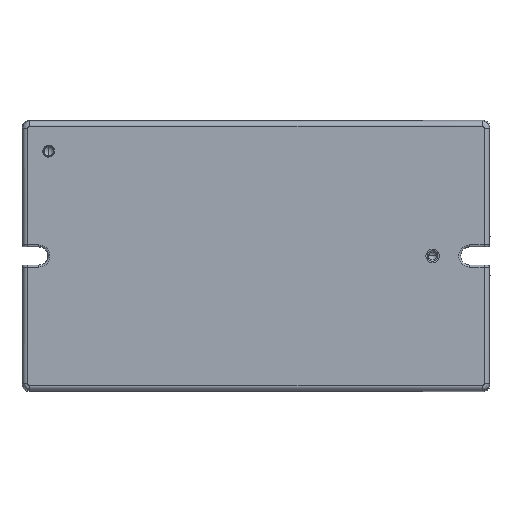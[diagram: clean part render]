
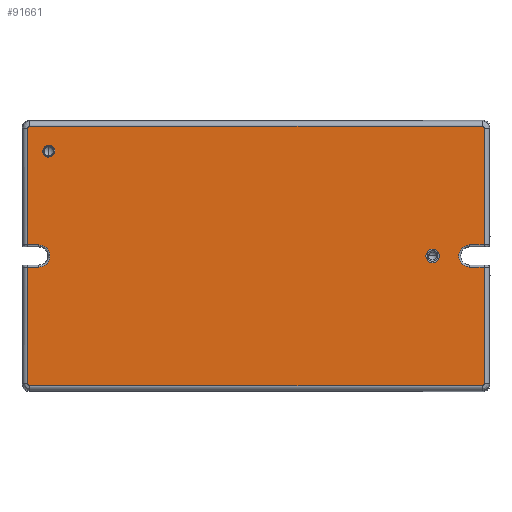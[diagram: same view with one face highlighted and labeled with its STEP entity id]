
A CAD part, front view. The second image highlights one B-rep face of the part: STEP entity #91661.
In plain terms, the highlighted planar face has unit normal (0, -1, 0).
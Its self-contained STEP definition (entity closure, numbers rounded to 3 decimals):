
#13783=DIRECTION('',(0.,0.,-1.));
#13784=VECTOR('',#13783,33.201);
#13785=CARTESIAN_POINT('',(39.02,-44.438,
90.439));
#13786=LINE('',#13785,#13784);
#14160=DIRECTION('',(1.,0.,0.));
#14161=VECTOR('',#14160,3.153);
#14162=CARTESIAN_POINT('',(39.02,-44.438,
57.239));
#14163=LINE('',#14162,#14161);
#14206=DIRECTION('',(-1.,0.,0.));
#14207=VECTOR('',#14206,3.153);
#14208=CARTESIAN_POINT('',(42.173,-44.438,
50.934));
#14209=LINE('',#14208,#14207);
#14397=DIRECTION('',(1.,0.,0.));
#14398=VECTOR('',#14397,128.706);
#14399=CARTESIAN_POINT('',(39.52,-44.438,
17.233));
#14400=LINE('',#14399,#14398);
#14411=CARTESIAN_POINT('',(44.953,-44.438,
83.886));
#14412=DIRECTION('',(0.,-1.,0.));
#14413=DIRECTION('',(0.524,0.,-0.852));
#14414=AXIS2_PLACEMENT_3D('',#14411,#14412,#14413);
#14419=CARTESIAN_POINT('',(44.953,-44.438,
83.886));
#14420=DIRECTION('',(0.,-1.,0.));
#14421=DIRECTION('',(-0.524,0.,0.852));
#14422=AXIS2_PLACEMENT_3D('',#14419,#14420,#14421);
#14427=CARTESIAN_POINT('',(154.103,-44.438,
54.086));
#14428=DIRECTION('',(0.,-1.,0.));
#14429=DIRECTION('',(-0.823,0.,-0.568));
#14430=AXIS2_PLACEMENT_3D('',#14427,#14428,#14429);
#14435=CARTESIAN_POINT('',(154.103,-44.438,
54.086));
#14436=DIRECTION('',(0.,-1.,0.));
#14437=DIRECTION('',(0.823,0.,0.568));
#14438=AXIS2_PLACEMENT_3D('',#14435,#14436,#14437);
#14443=CARTESIAN_POINT('',(39.519,-44.438,
17.733));
#14444=DIRECTION('',(0.,1.,0.));
#14445=DIRECTION('',(0.,0.,-1.));
#14446=AXIS2_PLACEMENT_3D('',#14443,#14444,#14445);
#14451=CARTESIAN_POINT('',(42.173,-44.438,
54.086));
#14452=DIRECTION('',(0.,-1.,0.));
#14453=DIRECTION('',(0.,0.,-1.));
#14454=AXIS2_PLACEMENT_3D('',#14451,#14452,#14453);
#14459=CARTESIAN_POINT('',(39.519,-44.438,
90.439));
#14460=DIRECTION('',(0.,1.,0.));
#14461=DIRECTION('',(-1.,0.,0.));
#14462=AXIS2_PLACEMENT_3D('',#14459,#14460,#14461);
#14467=DIRECTION('',(1.,0.,0.));
#14468=VECTOR('',#14467,128.706);
#14469=CARTESIAN_POINT('',(39.52,-44.438,
90.939));
#14470=LINE('',#14469,#14468);
#14474=CARTESIAN_POINT('',(168.226,-44.438,
90.439));
#14475=DIRECTION('',(0.,1.,0.));
#14476=DIRECTION('',(0.,0.,1.));
#14477=AXIS2_PLACEMENT_3D('',#14474,#14475,#14476);
#14482=CARTESIAN_POINT('',(164.683,-44.438,
54.086));
#14483=DIRECTION('',(0.,-1.,0.));
#14484=DIRECTION('',(0.,0.,1.));
#14485=AXIS2_PLACEMENT_3D('',#14482,#14483,#14484);
#14490=CARTESIAN_POINT('',(168.226,-44.438,
17.733));
#14491=DIRECTION('',(0.,1.,0.));
#14492=DIRECTION('',(1.,0.,0.));
#14493=AXIS2_PLACEMENT_3D('',#14490,#14491,#14492);
#14690=DIRECTION('',(0.,0.,-1.));
#14691=VECTOR('',#14690,33.201);
#14692=CARTESIAN_POINT('',(39.02,-44.438,
50.934));
#14693=LINE('',#14692,#14691);
#21376=DIRECTION('',(0.,0.,1.));
#21377=VECTOR('',#21376,33.201);
#21378=CARTESIAN_POINT('',(168.726,-44.438,
17.733));
#21379=LINE('',#21378,#21377);
#22284=DIRECTION('',(-1.,0.,0.));
#22285=VECTOR('',#22284,4.043);
#22286=CARTESIAN_POINT('',(168.726,-44.438,
50.934));
#22287=LINE('',#22286,#22285);
#22330=DIRECTION('',(1.,0.,0.));
#22331=VECTOR('',#22330,4.043);
#22332=CARTESIAN_POINT('',(164.683,-44.438,
57.239));
#22333=LINE('',#22332,#22331);
#22396=DIRECTION('',(0.,0.,1.));
#22397=VECTOR('',#22396,33.201);
#22398=CARTESIAN_POINT('',(168.726,-44.438,
57.239));
#22399=LINE('',#22398,#22397);
#67977=CARTESIAN_POINT('',(39.02,-44.438,
90.439));
#67978=CARTESIAN_POINT('',(39.02,-44.438,
57.239));
#67979=VERTEX_POINT('',#67977);
#67980=VERTEX_POINT('',#67978);
#67981=CARTESIAN_POINT('',(39.52,-44.438,
90.939));
#67982=VERTEX_POINT('',#67981);
#67983=CARTESIAN_POINT('',(168.226,-44.438,
90.939));
#67984=CARTESIAN_POINT('',(168.726,-44.438,
90.439));
#67985=VERTEX_POINT('',#67983);
#67986=VERTEX_POINT('',#67984);
#67987=CARTESIAN_POINT('',(168.726,-44.438,
57.239));
#67988=VERTEX_POINT('',#67987);
#67989=CARTESIAN_POINT('',(164.683,-44.438,
57.239));
#67990=VERTEX_POINT('',#67989);
#67991=CARTESIAN_POINT('',(168.726,-44.438,
50.934));
#67992=CARTESIAN_POINT('',(164.683,-44.438,
50.934));
#67993=VERTEX_POINT('',#67991);
#67994=VERTEX_POINT('',#67992);
#67995=CARTESIAN_POINT('',(168.726,-44.438,
17.733));
#67996=VERTEX_POINT('',#67995);
#67997=CARTESIAN_POINT('',(168.226,-44.438,
17.233));
#67998=VERTEX_POINT('',#67997);
#67999=CARTESIAN_POINT('',(39.52,-44.438,
17.233));
#68000=CARTESIAN_POINT('',(39.02,-44.438,
17.733));
#68001=VERTEX_POINT('',#67999);
#68002=VERTEX_POINT('',#68000);
#68003=CARTESIAN_POINT('',(39.02,-44.438,
50.934));
#68004=VERTEX_POINT('',#68003);
#68005=CARTESIAN_POINT('',(42.173,-44.438,
50.934));
#68006=VERTEX_POINT('',#68005);
#68007=CARTESIAN_POINT('',(42.173,-44.438,
57.239));
#68008=VERTEX_POINT('',#68007);
#68009=CARTESIAN_POINT('',(45.832,-44.438,
82.458));
#68010=CARTESIAN_POINT('',(44.074,-44.438,
85.314));
#68011=VERTEX_POINT('',#68009);
#68012=VERTEX_POINT('',#68010);
#68013=CARTESIAN_POINT('',(152.521,-44.438,
52.995));
#68014=CARTESIAN_POINT('',(155.684,-44.438,
55.177));
#68015=VERTEX_POINT('',#68013);
#68016=VERTEX_POINT('',#68014);
#91617=CARTESIAN_POINT('',(103.873,-44.438,
54.086));
#91618=DIRECTION('',(0.,1.,0.));
#91619=DIRECTION('',(1.,0.,0.));
#91620=AXIS2_PLACEMENT_3D('',#91617,#91618,#91619);
#91621=PLANE('',#91620);
#91622=ORIENTED_EDGE('',*,*,#91600,.F.);
#91623=ORIENTED_EDGE('',*,*,#91583,.T.);
#91625=ORIENTED_EDGE('',*,*,#91624,.F.);
#91626=ORIENTED_EDGE('',*,*,#91337,.F.);
#91627=ORIENTED_EDGE('',*,*,#91315,.T.);
#91628=ORIENTED_EDGE('',*,*,#91291,.F.);
#91629=ORIENTED_EDGE('',*,*,#90857,.F.);
#91630=ORIENTED_EDGE('',*,*,#90837,.T.);
#91632=ORIENTED_EDGE('',*,*,#91631,.T.);
#91634=ORIENTED_EDGE('',*,*,#91633,.T.);
#91636=ORIENTED_EDGE('',*,*,#91635,.F.);
#91638=ORIENTED_EDGE('',*,*,#91637,.F.);
#91640=ORIENTED_EDGE('',*,*,#91639,.T.);
#91642=ORIENTED_EDGE('',*,*,#91641,.F.);
#91644=ORIENTED_EDGE('',*,*,#91643,.F.);
#91646=ORIENTED_EDGE('',*,*,#91645,.T.);
#91647=EDGE_LOOP('',(#91622,#91623,#91625,#91626,#91627,#91628,#91629,#91630,
#91632,#91634,#91636,#91638,#91640,#91642,#91644,#91646));
#91648=FACE_OUTER_BOUND('',#91647,.F.);
#91650=ORIENTED_EDGE('',*,*,#91649,.T.);
#91652=ORIENTED_EDGE('',*,*,#91651,.T.);
#91653=EDGE_LOOP('',(#91650,#91652));
#91654=FACE_BOUND('',#91653,.F.);
#91656=ORIENTED_EDGE('',*,*,#91655,.T.);
#91658=ORIENTED_EDGE('',*,*,#91657,.T.);
#91659=EDGE_LOOP('',(#91656,#91658));
#91660=FACE_BOUND('',#91659,.F.);
#14415=CIRCLE('',#14414,1.677);
#14423=CIRCLE('',#14422,1.677);
#14431=CIRCLE('',#14430,1.921);
#14439=CIRCLE('',#14438,1.921);
#14447=CIRCLE('',#14446,0.5);
#14455=CIRCLE('',#14454,3.152);
#14463=CIRCLE('',#14462,0.5);
#14478=CIRCLE('',#14477,0.5);
#14486=CIRCLE('',#14485,3.152);
#14494=CIRCLE('',#14493,0.5);
#90837=EDGE_CURVE('',#67979,#67982,#14463,.T.);
#90857=EDGE_CURVE('',#67979,#67980,#13786,.T.);
#91291=EDGE_CURVE('',#67980,#68008,#14163,.T.);
#91315=EDGE_CURVE('',#68006,#68008,#14455,.T.);
#91337=EDGE_CURVE('',#68006,#68004,#14209,.T.);
#91583=EDGE_CURVE('',#68001,#68002,#14447,.T.);
#91600=EDGE_CURVE('',#68001,#67998,#14400,.T.);
#91624=EDGE_CURVE('',#68004,#68002,#14693,.T.);
#91631=EDGE_CURVE('',#67982,#67985,#14470,.T.);
#91633=EDGE_CURVE('',#67985,#67986,#14478,.T.);
#91635=EDGE_CURVE('',#67988,#67986,#22399,.T.);
#91637=EDGE_CURVE('',#67990,#67988,#22333,.T.);
#91639=EDGE_CURVE('',#67990,#67994,#14486,.T.);
#91641=EDGE_CURVE('',#67993,#67994,#22287,.T.);
#91643=EDGE_CURVE('',#67996,#67993,#21379,.T.);
#91645=EDGE_CURVE('',#67996,#67998,#14494,.T.);
#91649=EDGE_CURVE('',#68015,#68016,#14431,.T.);
#91651=EDGE_CURVE('',#68016,#68015,#14439,.T.);
#91655=EDGE_CURVE('',#68011,#68012,#14415,.T.);
#91657=EDGE_CURVE('',#68012,#68011,#14423,.T.);
#91661=ADVANCED_FACE('',(#91648,#91654,#91660),#91621,.F.);
